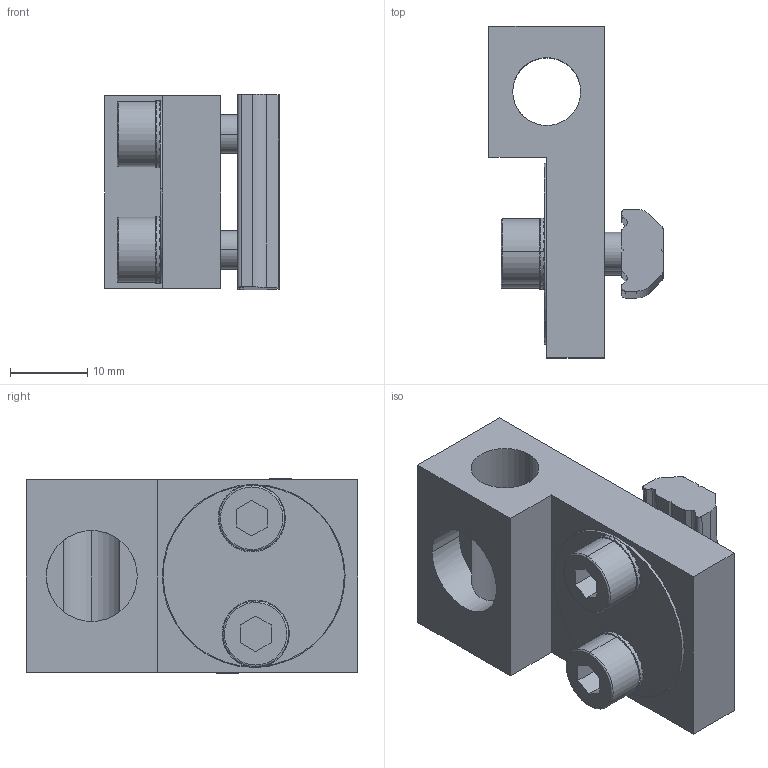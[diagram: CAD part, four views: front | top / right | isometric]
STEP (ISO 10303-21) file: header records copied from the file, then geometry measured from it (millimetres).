
FILE_DESCRIPTION (( 'STEP AP214' ), '1' );
FILE_NAME ('SVD-G14T.STEP', '2023-01-18T03:15:27', ( 'Windows User' ), ( 'P R C' ), 'SwSTEP 2.0', 'SolidWorks 2019', '' );
FILE_SCHEMA (( 'AUTOMOTIVE_DESIGN' ));
Length unit declared in the file: millimetre
Products named in the file (1): SVD-G14T
Bounding box: 22.6 x 43 x 25.35 mm (x, y, z)
Volume: 11167.8 mm3; surface area: 7949.8 mm2
Topology: 7 solids, 7 shells, 508 faces, 1471 edges, 974 vertices
Faces by surface type: plane 446, cylinder 54, cone 4, bspline 4
Entity records: 22909 total; most frequent: CARTESIAN_POINT 3464, ORIENTED_EDGE 2942, DIRECTION 2915, EDGE_CURVE 1471, AXIS2_PLACEMENT_3D 983, VERTEX_POINT 974, VECTOR 949, LINE 949
